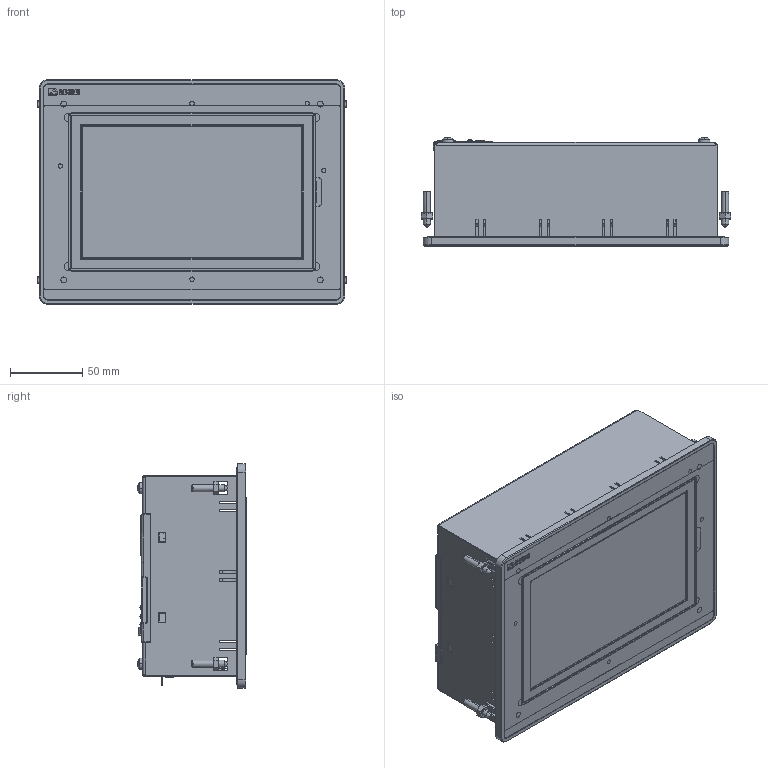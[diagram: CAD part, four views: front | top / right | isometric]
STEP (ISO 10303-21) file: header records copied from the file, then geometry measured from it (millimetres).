
FILE_DESCRIPTION((''),'2;1');
FILE_NAME('STEP_SW0001','2013-05-28T',('samardzica'),('Bernecker & Rainer'),'PRO/ENGINEER BY PARAMETRIC TECHNOLOGY CORPORATION, 2011040','PRO/ENGINEER BY PARAMETRIC TECHNOLOGY CORPORATION, 2011040','');
FILE_SCHEMA(('AUTOMOTIVE_DESIGN_CC2 { 1 2 10303 214 -1 1 5 2 }'));
Products named in the file (1): STEP_SW0001
Bounding box: 215 x 75.15 x 156 mm (x, y, z)
Volume: 211524.5 mm3; surface area: 293699.4 mm2
Topology: 25 solids, 27 shells, 5850 faces, 15508 edges, 9927 vertices
Faces by surface type: plane 3835, cylinder 1242, extrusion 333, cone 252, bspline 88, torus 60, sphere 36, revolution 4
Entity records: 237742 total; most frequent: CARTESIAN_POINT 51044, ORIENTED_EDGE 30968, DIRECTION 27913, EDGE_CURVE 15484, VECTOR 11415, LINE 11082, VERTEX_POINT 9927, AXIS2_PLACEMENT_3D 8247
